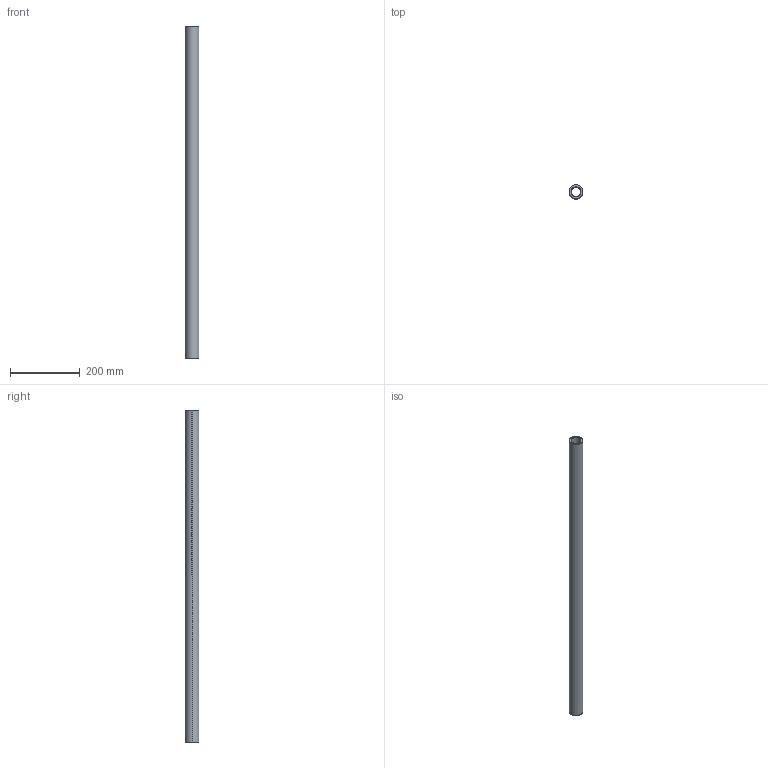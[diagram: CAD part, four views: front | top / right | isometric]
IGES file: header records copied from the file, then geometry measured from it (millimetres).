
Start section: SolidWorks IGES file using analytic representation for surfaces
Global section: file name: C:\Users\IanO\Desktop\L1771_v2\L1771.40_v2\L1771.40_v2_20230705_IGES\L1771.40-0950.igs; native system: SolidWorks 2019; preprocessor: SolidWorks 2019; author: IanO; date: 230705.160305; units: millimetre
Bounding box: 40 x 40 x 950 mm (x, y, z)
Surface area: 204228.7 mm2 (no closed solid volume)
Topology: 0 solids, 0 shells, 6 faces, 272 edges, 272 vertices
Faces by surface type: revolution 4, bspline 2
